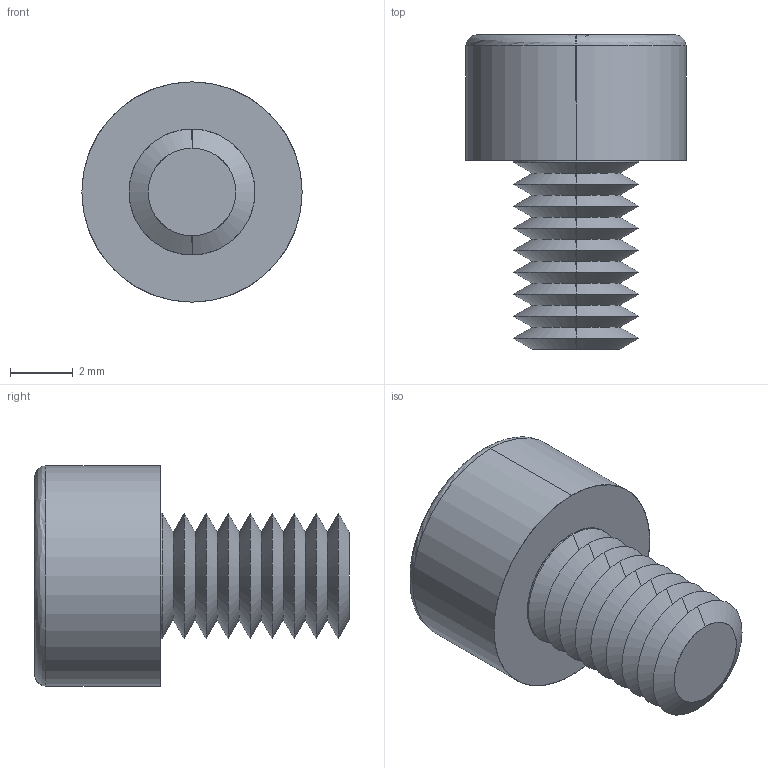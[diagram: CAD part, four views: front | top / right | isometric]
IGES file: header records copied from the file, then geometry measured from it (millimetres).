
Start section: SolidWorks IGES file using analytic representation for surfaces
Global section: file name: C:\Users\ianosborn\Desktop\N0007.91N_v2\N0007.91N_v2_20250519_IGES\91N.040.0060.igs; native system: SolidWorks 2019; preprocessor: SolidWorks 2019; author: IanOsborn; date: 250520.095033; units: millimetre
Bounding box: 7 x 10 x 7 mm (x, y, z)
Surface area: 314.5 mm2 (no closed solid volume)
Topology: 0 solids, 0 shells, 64 faces, 441 edges, 439 vertices
Faces by surface type: revolution 47, bspline 17
